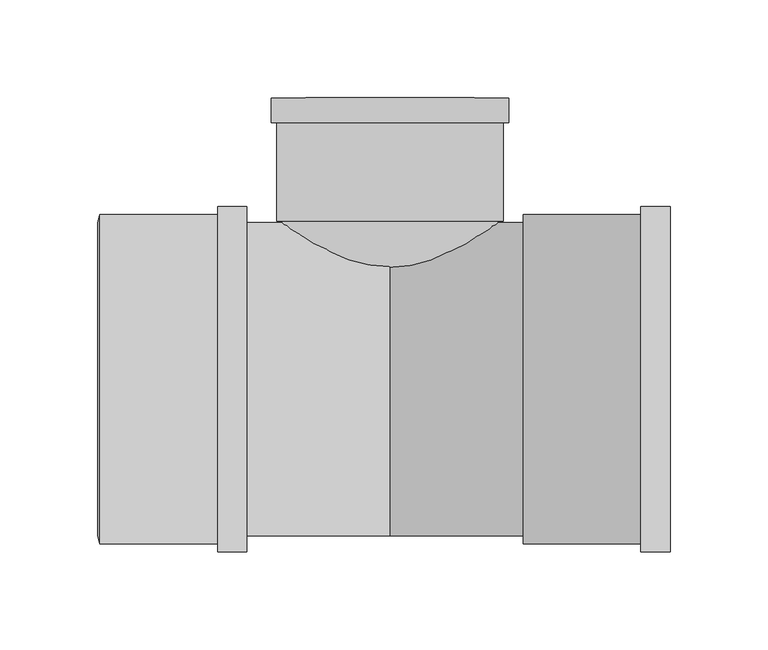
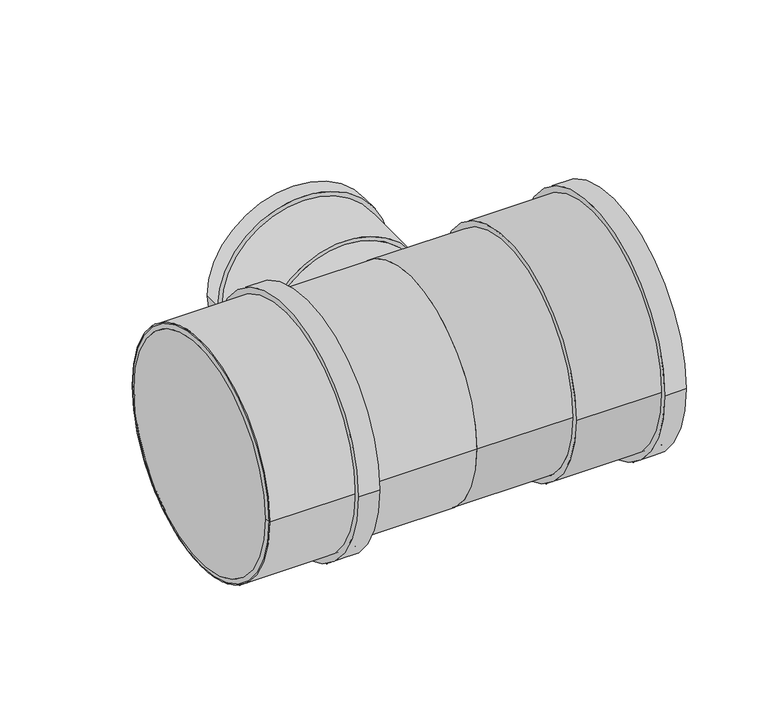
"""IFC4 building model written with IfcOpenShell, lengths in millimetres: pipe fitting geometry, Superdrain HTEA Branch : Superdrain HTEA Branch."""

from ifc_helpers import new_model, si_unit, point, frame, origin, origin_2d, place, context, project, spatial, polyline, circle_curve, trimmed, segment, composite_curve, outline, extrude, source, transform, mapped, element, save
from ifc_brep_helpers import plane_surface, revolved_surface, advanced_brep


def pipe_fitting_42958cf9(model_context):
    return source(origin(), model_context, "Body", "SolidModel", [
        extrude(outline(composite_curve([segment(trimmed(circle_curve(origin_2d(), 84.0), [point((84.0, 0.0))], [point((-84.0, 0.0))], False, "CARTESIAN"), True, "CONTINUOUS"), segment(trimmed(circle_curve(origin_2d(), 84.0), [point((-84.0, 0.0))], [point((84.0, 0.0))], False, "CARTESIAN"), True, "CONTINUOUS")], self_intersect=False), holes=[composite_curve([segment(trimmed(circle_curve(origin_2d(), 80.0), [point((80.0, 0.0))], [point((-80.0, 0.0))], True, "CARTESIAN"), True, "CONTINUOUS"), segment(trimmed(circle_curve(origin_2d(), 80.0), [point((-80.0, 0.0))], [point((80.0, 0.0))], True, "CARTESIAN"), True, "CONTINUOUS")], self_intersect=False)]), frame((-148.0, 0.0, 0.0), z_axis=(1.0, 0.0, 0.0), x_axis=(0.0, 1.0, 0.0)), (0.0, 0.0, 1.0), 75.0),
        extrude(outline(composite_curve([segment(trimmed(circle_curve(origin_2d(), 88.2), [point((88.2, 0.0))], [point((-88.2, 0.0))], False, "CARTESIAN"), True, "CONTINUOUS"), segment(trimmed(circle_curve(origin_2d(), 88.2), [point((-88.2, 0.0))], [point((88.2, 0.0))], False, "CARTESIAN"), True, "CONTINUOUS")], self_intersect=False), holes=[composite_curve([segment(trimmed(circle_curve(origin_2d(), 80.0), [point((80.0, 0.0))], [point((-80.0, 0.0))], True, "CARTESIAN"), True, "CONTINUOUS"), segment(trimmed(circle_curve(origin_2d(), 80.0), [point((-80.0, 0.0))], [point((80.0, 0.0))], True, "CARTESIAN"), True, "CONTINUOUS")], self_intersect=False)]), frame((-88.0, 0.0, 0.0), z_axis=(1.0, 0.0, 0.0), x_axis=(0.0, 1.0, 0.0)), (0.0, 0.0, 1.0), 15.0),
        advanced_brep(
        [(-149.0, 80.0, 0.0), (-149.0, -80.0, 0.0), (-148.0, 84.0, 0.0), (-148.0, -84.0, 0.0)],
        [
            (0, 1, circle_curve(frame((-149.0, 0.0, 0.0), z_axis=(-1.0, 0.0, 0.0), x_axis=(0.0, 1.0, 0.0)), 80.0)),
            (1, 0, circle_curve(frame((-149.0, 0.0, 0.0), z_axis=(-1.0, 0.0, 0.0), x_axis=(0.0, -1.0, 0.0)), 80.0)),
            (2, 3, circle_curve(frame((-148.0, 0.0, 0.0), z_axis=(1.0, 0.0, 0.0), x_axis=(0.0, -1.0, 0.0)), 84.0)),
            (3, 2, circle_curve(frame((-148.0, 0.0, 0.0), z_axis=(1.0, 0.0, 0.0), x_axis=(0.0, 1.0, 0.0)), 84.0)),
            (3, 1),
            (0, 2),
        ],
        [
            plane_surface(frame((-149.0, 0.0, 0.0), z_axis=(-1.0, 0.0, 0.0), x_axis=(0.0, 0.0, -1.0))),
            plane_surface(frame((-148.0, 0.0, 0.0), z_axis=(1.0, 0.0, 0.0), x_axis=(0.0, 0.0, -1.0))),
            revolved_surface(polyline([(-149.0, 80.0, 0.0), (-148.0, 84.0, 0.0)]), (-169.0, 0.0, 0.0), (1.0, 0.0, 0.0)),
            revolved_surface(polyline([(-149.0, -80.0, 0.0), (-148.0, -84.0, 0.0)]), (-169.0, 0.0, 0.0), (1.0, 0.0, 0.0)),
        ],
        [
            (0, [[1, 2]]),
            (1, [[3, 4]]),
            (2, [[-4, 5, -1, 6]]),
            (3, [[-3, -6, -2, -5]]),
        ],
    ),
        extrude(outline(composite_curve([segment(trimmed(circle_curve(origin_2d(), 84.0), [point((-84.0, 0.0))], [point((84.0, 0.0))], False, "CARTESIAN"), True, "CONTINUOUS"), segment(trimmed(circle_curve(origin_2d(), 84.0), [point((84.0, 0.0))], [point((-84.0, 0.0))], False, "CARTESIAN"), True, "CONTINUOUS")], self_intersect=False), holes=[composite_curve([segment(trimmed(circle_curve(origin_2d(), 80.0), [point((80.0, 0.0))], [point((-80.0, 0.0))], True, "CARTESIAN"), True, "CONTINUOUS"), segment(trimmed(circle_curve(origin_2d(), 80.0), [point((-80.0, 0.0))], [point((80.0, 0.0))], True, "CARTESIAN"), True, "CONTINUOUS")], self_intersect=False)]), frame((67.9, 0.0, 0.0), z_axis=(1.0, 0.0, 0.0), x_axis=(0.0, 1.0, 0.0)), (0.0, 0.0, 1.0), 75.0),
        extrude(outline(composite_curve([segment(trimmed(circle_curve(origin_2d(), 88.2), [point((88.2, 0.0))], [point((-88.2, 0.0))], False, "CARTESIAN"), True, "CONTINUOUS"), segment(trimmed(circle_curve(origin_2d(), 88.2), [point((-88.2, 0.0))], [point((88.2, 0.0))], False, "CARTESIAN"), True, "CONTINUOUS")], self_intersect=False), holes=[composite_curve([segment(trimmed(circle_curve(origin_2d(), 80.0), [point((80.0, 0.0))], [point((-80.0, 0.0))], True, "CARTESIAN"), True, "CONTINUOUS"), segment(trimmed(circle_curve(origin_2d(), 80.0), [point((-80.0, 0.0))], [point((80.0, 0.0))], True, "CARTESIAN"), True, "CONTINUOUS")], self_intersect=False)]), frame((127.9, 0.0, 0.0), z_axis=(1.0, 0.0, 0.0), x_axis=(0.0, 1.0, 0.0)), (0.0, 0.0, 1.0), 15.0),
        extrude(outline(composite_curve([segment(trimmed(circle_curve(origin_2d(), 55.0), [point((0.0, 55.0))], [point((0.0, -55.0))], False, "CARTESIAN"), True, "CONTINUOUS"), segment(trimmed(circle_curve(origin_2d(), 55.0), [point((0.0, -55.0))], [point((0.0, 55.0))], False, "CARTESIAN"), True, "CONTINUOUS")], self_intersect=False)), frame((0.0, 0.0, 0.0), z_axis=(0.0, 1.0, 0.0), x_axis=(0.0, 0.0, 1.0)), (0.0, 0.0, 1.0), 80.6),
        extrude(outline(composite_curve([segment(trimmed(circle_curve(origin_2d(), 80.0), [point((80.0, 0.0))], [point((-80.0, 0.0))], False, "CARTESIAN"), True, "CONTINUOUS"), segment(trimmed(circle_curve(origin_2d(), 80.0), [point((-80.0, 0.0))], [point((80.0, 0.0))], False, "CARTESIAN"), True, "CONTINUOUS")], self_intersect=False)), frame((-148.0, 0.0, 0.0), z_axis=(1.0, 0.0, 0.0), x_axis=(0.0, 1.0, 0.0)), (0.0, 0.0, 1.0), 148.0),
        extrude(outline(composite_curve([segment(trimmed(circle_curve(origin_2d(), 80.0), [point((-80.0, 0.0))], [point((80.0, 0.0))], False, "CARTESIAN"), True, "CONTINUOUS"), segment(trimmed(circle_curve(origin_2d(), 80.0), [point((80.0, 0.0))], [point((-80.0, 0.0))], False, "CARTESIAN"), True, "CONTINUOUS")], self_intersect=False)), frame((0.0, 0.0, 0.0), z_axis=(1.0, 0.0, 0.0), x_axis=(0.0, 1.0, 0.0)), (0.0, 0.0, 1.0), 67.9),
        extrude(outline(composite_curve([segment(trimmed(circle_curve(origin_2d(), 60.6375), [point((0.0, 60.6375))], [point((0.0, -60.6375))], False, "CARTESIAN"), True, "CONTINUOUS"), segment(trimmed(circle_curve(origin_2d(), 60.6375), [point((0.0, -60.6375))], [point((0.0, 60.6375))], False, "CARTESIAN"), True, "CONTINUOUS")], self_intersect=False), holes=[composite_curve([segment(trimmed(circle_curve(origin_2d(), 55.0), [point((0.0, 55.0))], [point((0.0, -55.0))], True, "CARTESIAN"), True, "CONTINUOUS"), segment(trimmed(circle_curve(origin_2d(), 55.0), [point((0.0, -55.0))], [point((0.0, 55.0))], True, "CARTESIAN"), True, "CONTINUOUS")], self_intersect=False)]), frame((0.0, 131.0, 0.0), z_axis=(0.0, 1.0, 0.0), x_axis=(0.0, 0.0, 1.0)), (0.0, 0.0, 1.0), 12.6),
        extrude(outline(composite_curve([segment(trimmed(circle_curve(origin_2d(), 57.75), [point((0.0, 57.75))], [point((0.0, -57.75))], False, "CARTESIAN"), True, "CONTINUOUS"), segment(trimmed(circle_curve(origin_2d(), 57.75), [point((0.0, -57.75))], [point((0.0, 57.75))], False, "CARTESIAN"), True, "CONTINUOUS")], self_intersect=False), holes=[composite_curve([segment(trimmed(circle_curve(origin_2d(), 55.0), [point((0.0, 55.0))], [point((0.0, -55.0))], True, "CARTESIAN"), True, "CONTINUOUS"), segment(trimmed(circle_curve(origin_2d(), 55.0), [point((0.0, -55.0))], [point((0.0, 55.0))], True, "CARTESIAN"), True, "CONTINUOUS")], self_intersect=False)]), frame((0.0, 80.6, 0.0), z_axis=(0.0, 1.0, 0.0), x_axis=(0.0, 0.0, 1.0)), (0.0, 0.0, 1.0), 63.0),
    ])


if __name__ == "__main__":
    model = new_model("IFC4")
    model_context = context("Model", 3, world=origin())
    ifc_project = project(units=[si_unit("LENGTHUNIT", "METRE", prefix="MILLI")], contexts=[model_context])
    site = spatial("IfcSite", under=ifc_project)
    building = spatial("IfcBuilding", under=site)
    placement = place(None, origin())
    pipe_fitting_shape = pipe_fitting_42958cf9(model_context)
    element("IfcPipeFitting", 1, ObjectType="Superdrain HTEA Branch : Superdrain HTEA Branch", at=placement, inside=building, context=model_context, shape_type="MappedRepresentation", body=[
        mapped(pipe_fitting_shape, transform((0.0, 0.0, 0.0), x_axis=(1.0, 0.0, 0.0), y_axis=(0.0, 1.0, 0.0), z_axis=(0.0, 0.0, 1.0))),
    ])
    save(model, "model.ifc")
